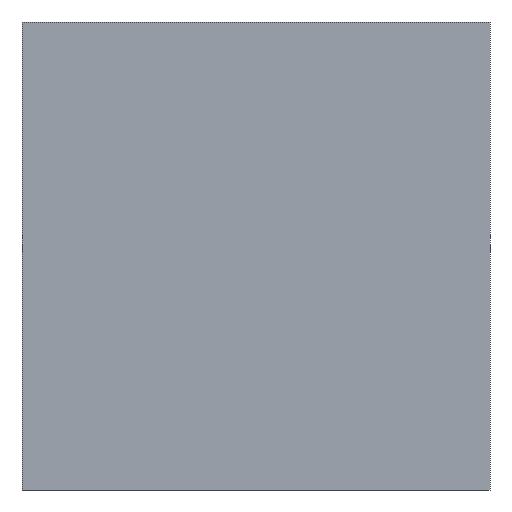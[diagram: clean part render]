
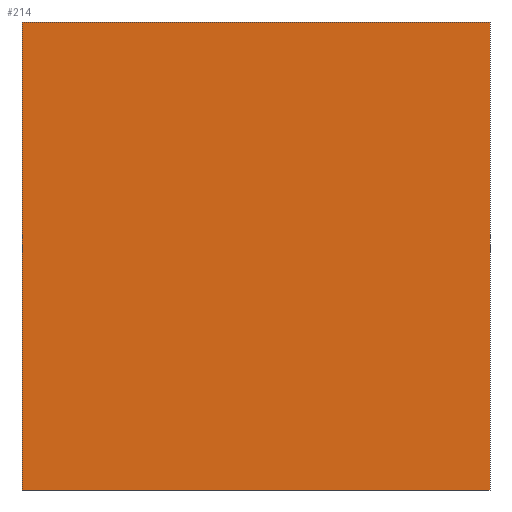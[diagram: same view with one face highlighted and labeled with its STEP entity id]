
A CAD part, front view. The second image highlights one B-rep face of the part: STEP entity #214.
In plain terms, the highlighted planar face has unit normal (0, -1, 0).
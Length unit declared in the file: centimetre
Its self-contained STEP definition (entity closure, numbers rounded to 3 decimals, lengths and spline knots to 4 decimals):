
#16 = DIRECTION ( 'NONE',  ( 1., 0., 0. ) ) ;
#42 = CARTESIAN_POINT ( 'NONE',  ( 0., 0., 1000. ) ) ;
#62 = LINE ( 'NONE', #203, #243 ) ;
#71 = VERTEX_POINT ( 'NONE', #298 ) ;
#75 = VERTEX_POINT ( 'NONE', #233 ) ;
#95 = LINE ( 'NONE', #166, #351 ) ;
#134 = CARTESIAN_POINT ( 'NONE',  ( 0., 0., 0. ) ) ;
#136 = FACE_OUTER_BOUND ( 'NONE', #406, .T. ) ;
#138 = EDGE_CURVE ( 'NONE', #71, #248, #193, .T. ) ;
#141 = PLANE ( 'NONE',  #267 ) ;
#142 = ORIENTED_EDGE ( 'NONE', *, *, #377, .F. ) ;
#155 = EDGE_CURVE ( 'NONE', #75, #324, #95, .T. ) ;
#166 = CARTESIAN_POINT ( 'NONE',  ( 1000., 0., 1000. ) ) ;
#193 = LINE ( 'NONE', #272, #372 ) ;
#203 = CARTESIAN_POINT ( 'NONE',  ( 0., 0., 0. ) ) ;
#214 = ADVANCED_FACE ( 'NONE', ( #136 ), #141, .F. ) ;
#233 = CARTESIAN_POINT ( 'NONE',  ( 1000., 0., 1000. ) ) ;
#243 = VECTOR ( 'NONE', #354, 100. ) ;
#244 = CARTESIAN_POINT ( 'NONE',  ( 0., 0., 1000. ) ) ;
#248 = VERTEX_POINT ( 'NONE', #134 ) ;
#249 = VECTOR ( 'NONE', #16, 100. ) ;
#255 = LINE ( 'NONE', #42, #249 ) ;
#265 = ORIENTED_EDGE ( 'NONE', *, *, #155, .F. ) ;
#267 = AXIS2_PLACEMENT_3D ( 'NONE', #244, #470, #423 ) ;
#272 = CARTESIAN_POINT ( 'NONE',  ( 0., 0., 1000. ) ) ;
#298 = CARTESIAN_POINT ( 'NONE',  ( 0., 0., 1000. ) ) ;
#310 = DIRECTION ( 'NONE',  ( 0., 0., -1. ) ) ;
#316 = ORIENTED_EDGE ( 'NONE', *, *, #355, .T. ) ;
#324 = VERTEX_POINT ( 'NONE', #389 ) ;
#337 = ORIENTED_EDGE ( 'NONE', *, *, #138, .T. ) ;
#351 = VECTOR ( 'NONE', #426, 100. ) ;
#354 = DIRECTION ( 'NONE',  ( 1., 0., 0. ) ) ;
#355 = EDGE_CURVE ( 'NONE', #248, #324, #62, .T. ) ;
#372 = VECTOR ( 'NONE', #310, 100. ) ;
#377 = EDGE_CURVE ( 'NONE', #71, #75, #255, .T. ) ;
#389 = CARTESIAN_POINT ( 'NONE',  ( 1000., 0., 0. ) ) ;
#406 = EDGE_LOOP ( 'NONE', ( #316, #265, #142, #337 ) ) ;
#423 = DIRECTION ( 'NONE',  ( 0., 0., 1. ) ) ;
#426 = DIRECTION ( 'NONE',  ( 0., 0., -1. ) ) ;
#470 = DIRECTION ( 'NONE',  ( 0., 1., 0. ) ) ;
